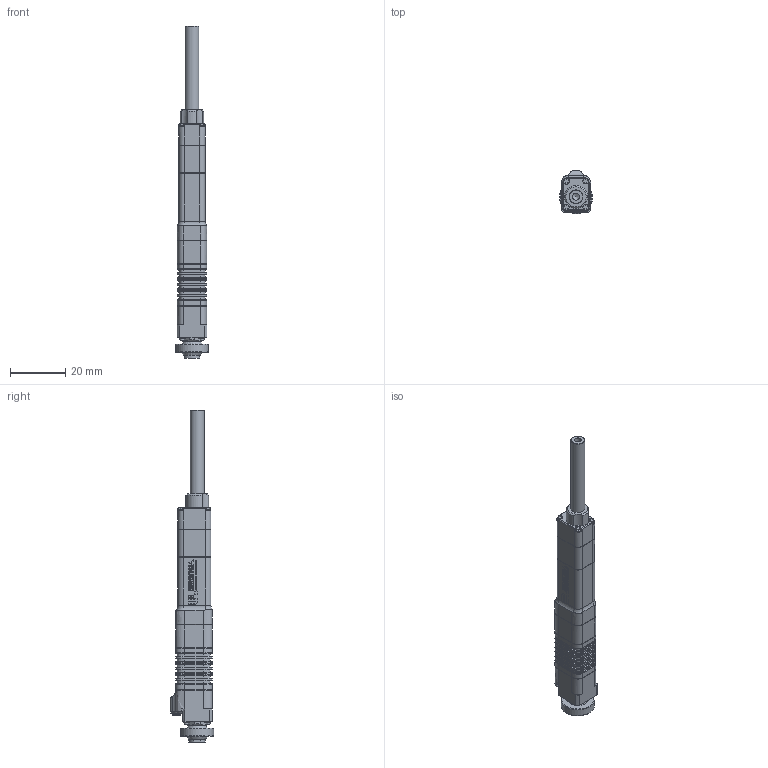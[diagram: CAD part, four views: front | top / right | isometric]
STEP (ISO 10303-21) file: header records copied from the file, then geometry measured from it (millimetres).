
FILE_DESCRIPTION (( 'STEP AP203' ), '1' );
FILE_NAME ('LAF30-0x4D-1201.STEP', '2023-12-01T09:14:16', ( '' ), ( '' ), '' );
FILE_SCHEMA (( 'CONFIG_CONTROL_DESIGN' ));
Length unit declared in the file: millimetre
Products named in the file (4): NSK-GE4C外圈; AS820130-015芢裝-俋楷; 驱动器L30-0X4D外发; LAF30-0x4D-1201
Assembly tree (3 placements, depth 2):
  LAF30-0x4D-1201
    驱动器L30-0X4D外发
    AS820130-015芢裝-俋楷
    NSK-GE4C外圈
Bounding box: 11.97 x 15.79 x 120.7 mm (x, y, z)
Volume: 10302 mm3; surface area: 5838.6 mm2
Topology: 3 solids, 6 shells, 1601 faces, 4186 edges, 2721 vertices
Faces by surface type: plane 871, bspline 556, cylinder 122, cone 44, torus 6, sphere 2
Full cylindrical faces by diameter (mm): 2.05 x1, 2.17 x5, 2.4 x1, 2.5 x2, 2.6 x2, 3.3 x1, 4 x2, 5 x2, 12 x1
Entity records: 61566 total; most frequent: CARTESIAN_POINT 25826, ORIENTED_EDGE 8270, DIRECTION 5385, EDGE_CURVE 4135, VERTEX_POINT 2701, LINE 2673, VECTOR 2673, EDGE_LOOP 1764
